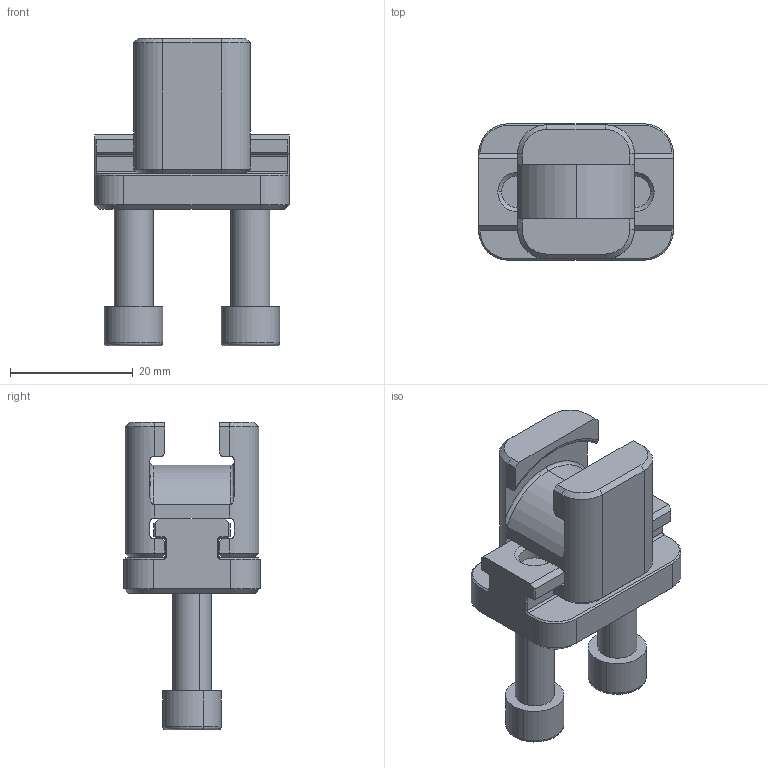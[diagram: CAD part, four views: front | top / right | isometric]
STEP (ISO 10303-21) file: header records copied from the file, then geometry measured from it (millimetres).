
FILE_DESCRIPTION (( 'STEP AP203' ), '1' );
FILE_NAME ('UCU87-TGU50.STEP', '2013-06-11T18:00:25', ( '' ), ( '' ), 'SwSTEP 2.0', 'SolidWorks 2011', '' );
FILE_SCHEMA (( 'CONFIG_CONTROL_DESIGN' ));
Length unit declared in the file: inch
Products named in the file (4): UCU87-TGU50; 250_SHCS; TGU50; UCU87
Assembly tree (4 placements, depth 2):
  UCU87-TGU50
    UCU87
    250_SHCS  x2
    TGU50
Bounding box: 31.72 x 22.23 x 50.14 mm (x, y, z)
Volume: 13200.3 mm3; surface area: 7571.9 mm2
Topology: 4 solids, 4 shells, 198 faces, 471 edges, 285 vertices
Faces by surface type: plane 119, cylinder 34, cone 32, torus 13
Entity records: 5557 total; most frequent: CARTESIAN_POINT 1033, DIRECTION 861, ORIENTED_EDGE 842, EDGE_CURVE 421, AXIS2_PLACEMENT_3D 287, VECTOR 287, LINE 287, VERTEX_POINT 255
